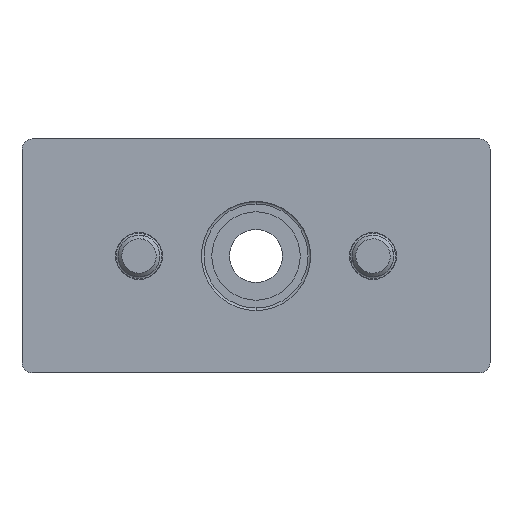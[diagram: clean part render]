
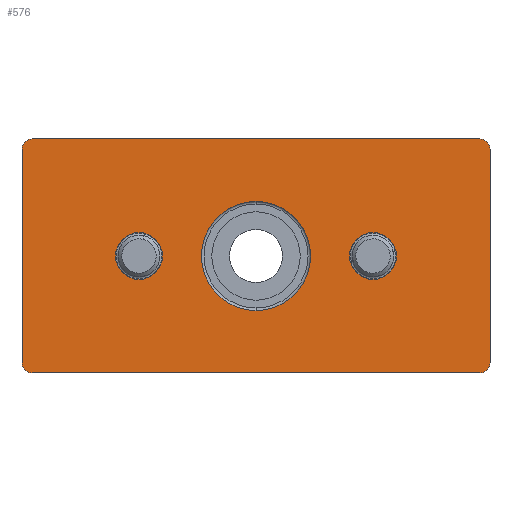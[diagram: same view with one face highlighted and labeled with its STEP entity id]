
A CAD part, front view. The second image highlights one B-rep face of the part: STEP entity #576.
In plain terms, the highlighted planar face has unit normal (0, -1, 0).
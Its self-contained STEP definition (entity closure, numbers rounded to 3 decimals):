
#33 = EDGE_CURVE ( 'NONE', #2861, #1975, #3966, .T. ) ;
#91 = VERTEX_POINT ( 'NONE', #2272 ) ;
#169 = VERTEX_POINT ( 'NONE', #793 ) ;
#198 = CIRCLE ( 'NONE', #2948, 4.5 ) ;
#212 = DIRECTION ( 'NONE',  ( 0., -1., 0. ) ) ;
#272 = VECTOR ( 'NONE', #3303, 1000. ) ;
#424 = CIRCLE ( 'NONE', #931, 2. ) ;
#434 = CARTESIAN_POINT ( 'NONE',  ( 38.489, -5.209, 21.222 ) ) ;
#472 = AXIS2_PLACEMENT_3D ( 'NONE', #2050, #3897, #1173 ) ;
#477 = EDGE_CURVE ( 'NONE', #3824, #1774, #3130, .T. ) ;
#493 = AXIS2_PLACEMENT_3D ( 'NONE', #1984, #2635, #2044 ) ;
#511 = ORIENTED_EDGE ( 'NONE', *, *, #2303, .T. ) ;
#525 = DIRECTION ( 'NONE',  ( 1., 0., 0. ) ) ;
#530 = VERTEX_POINT ( 'NONE', #3751 ) ;
#563 = EDGE_LOOP ( 'NONE', ( #2375, #2563 ) ) ;
#576 = ADVANCED_FACE ( 'NONE', ( #1608, #1907, #1285, #2286 ), #763, .F. ) ;
#589 = CARTESIAN_POINT ( 'NONE',  ( -49.511, -5.209, -21.778 ) ) ;
#615 = DIRECTION ( 'NONE',  ( 0., 0., 1. ) ) ;
#632 = ORIENTED_EDGE ( 'NONE', *, *, #477, .F. ) ;
#741 = CIRCLE ( 'NONE', #3748, 2. ) ;
#763 = PLANE ( 'NONE',  #2576 ) ;
#768 = CARTESIAN_POINT ( 'NONE',  ( -4.511, -5.209, 0.722 ) ) ;
#771 = LINE ( 'NONE', #1079, #3685 ) ;
#791 = EDGE_LOOP ( 'NONE', ( #2367, #3598 ) ) ;
#793 = CARTESIAN_POINT ( 'NONE',  ( -27.011, -5.209, -3.778 ) ) ;
#795 = CARTESIAN_POINT ( 'NONE',  ( 17.989, -5.209, 0.722 ) ) ;
#806 = ORIENTED_EDGE ( 'NONE', *, *, #2157, .F. ) ;
#832 = CARTESIAN_POINT ( 'NONE',  ( -49.511, -5.209, -19.778 ) ) ;
#838 = DIRECTION ( 'NONE',  ( 0., 0., -1. ) ) ;
#907 = CARTESIAN_POINT ( 'NONE',  ( -27.011, -5.209, 0.722 ) ) ;
#931 = AXIS2_PLACEMENT_3D ( 'NONE', #1319, #3805, #3726 ) ;
#946 = VERTEX_POINT ( 'NONE', #1267 ) ;
#1079 = CARTESIAN_POINT ( 'NONE',  ( 40.489, -5.209, 23.222 ) ) ;
#1101 = VECTOR ( 'NONE', #2877, 1000. ) ;
#1141 = DIRECTION ( 'NONE',  ( 0., 0., 1. ) ) ;
#1173 = DIRECTION ( 'NONE',  ( 0., 0., 1. ) ) ;
#1207 = DIRECTION ( 'NONE',  ( 0., -1., 0. ) ) ;
#1217 = CARTESIAN_POINT ( 'NONE',  ( 17.989, -5.209, 5.222 ) ) ;
#1267 = CARTESIAN_POINT ( 'NONE',  ( 17.989, -5.209, -3.778 ) ) ;
#1285 = FACE_BOUND ( 'NONE', #1833, .T. ) ;
#1319 = CARTESIAN_POINT ( 'NONE',  ( -47.511, -5.209, 21.222 ) ) ;
#1344 = CARTESIAN_POINT ( 'NONE',  ( -4.511, -5.209, -9.778 ) ) ;
#1377 = DIRECTION ( 'NONE',  ( 0., 0., -1. ) ) ;
#1486 = ORIENTED_EDGE ( 'NONE', *, *, #3076, .F. ) ;
#1580 = EDGE_CURVE ( 'NONE', #2861, #2386, #771, .T. ) ;
#1607 = AXIS2_PLACEMENT_3D ( 'NONE', #768, #2924, #1992 ) ;
#1608 = FACE_BOUND ( 'NONE', #791, .T. ) ;
#1677 = LINE ( 'NONE', #3239, #1101 ) ;
#1700 = ORIENTED_EDGE ( 'NONE', *, *, #2372, .T. ) ;
#1727 = CARTESIAN_POINT ( 'NONE',  ( 38.489, -5.209, -19.778 ) ) ;
#1762 = CARTESIAN_POINT ( 'NONE',  ( -27.011, -5.209, 5.222 ) ) ;
#1773 = VERTEX_POINT ( 'NONE', #2843 ) ;
#1774 = VERTEX_POINT ( 'NONE', #2242 ) ;
#1787 = DIRECTION ( 'NONE',  ( 0., 1., 0. ) ) ;
#1802 = VERTEX_POINT ( 'NONE', #2165 ) ;
#1833 = EDGE_LOOP ( 'NONE', ( #632, #1981 ) ) ;
#1907 = FACE_BOUND ( 'NONE', #563, .T. ) ;
#1975 = VERTEX_POINT ( 'NONE', #3359 ) ;
#1981 = ORIENTED_EDGE ( 'NONE', *, *, #3100, .F. ) ;
#1984 = CARTESIAN_POINT ( 'NONE',  ( -27.011, -5.209, 0.722 ) ) ;
#1992 = DIRECTION ( 'NONE',  ( 0., 0., -1. ) ) ;
#2022 = DIRECTION ( 'NONE',  ( 0., 1., 0. ) ) ;
#2044 = DIRECTION ( 'NONE',  ( 0., 0., 1. ) ) ;
#2045 = DIRECTION ( 'NONE',  ( 0., 0., 1. ) ) ;
#2050 = CARTESIAN_POINT ( 'NONE',  ( 17.989, -5.209, 0.722 ) ) ;
#2082 = CIRCLE ( 'NONE', #2585, 2. ) ;
#2134 = EDGE_CURVE ( 'NONE', #530, #2386, #741, .T. ) ;
#2157 = EDGE_CURVE ( 'NONE', #91, #1975, #2954, .T. ) ;
#2165 = CARTESIAN_POINT ( 'NONE',  ( -47.511, -5.209, -21.778 ) ) ;
#2208 = CIRCLE ( 'NONE', #493, 4.5 ) ;
#2227 = VERTEX_POINT ( 'NONE', #832 ) ;
#2242 = CARTESIAN_POINT ( 'NONE',  ( -4.511, -5.209, 11.222 ) ) ;
#2253 = ORIENTED_EDGE ( 'NONE', *, *, #2134, .T. ) ;
#2272 = CARTESIAN_POINT ( 'NONE',  ( -47.511, -5.209, 23.222 ) ) ;
#2286 = FACE_OUTER_BOUND ( 'NONE', #3739, .T. ) ;
#2303 = EDGE_CURVE ( 'NONE', #2227, #1802, #2082, .T. ) ;
#2367 = ORIENTED_EDGE ( 'NONE', *, *, #3524, .T. ) ;
#2372 = EDGE_CURVE ( 'NONE', #91, #1773, #424, .T. ) ;
#2375 = ORIENTED_EDGE ( 'NONE', *, *, #2860, .T. ) ;
#2386 = VERTEX_POINT ( 'NONE', #3783 ) ;
#2437 = AXIS2_PLACEMENT_3D ( 'NONE', #3559, #2656, #838 ) ;
#2449 = EDGE_CURVE ( 'NONE', #169, #3895, #2208, .T. ) ;
#2518 = DIRECTION ( 'NONE',  ( 0., 0., 1. ) ) ;
#2563 = ORIENTED_EDGE ( 'NONE', *, *, #3953, .T. ) ;
#2576 = AXIS2_PLACEMENT_3D ( 'NONE', #3543, #2639, #1141 ) ;
#2585 = AXIS2_PLACEMENT_3D ( 'NONE', #3689, #1207, #3633 ) ;
#2613 = VERTEX_POINT ( 'NONE', #1217 ) ;
#2635 = DIRECTION ( 'NONE',  ( 0., 1., 0. ) ) ;
#2639 = DIRECTION ( 'NONE',  ( 0., 1., 0. ) ) ;
#2656 = DIRECTION ( 'NONE',  ( 0., -1., 0. ) ) ;
#2803 = AXIS2_PLACEMENT_3D ( 'NONE', #434, #3039, #2518 ) ;
#2843 = CARTESIAN_POINT ( 'NONE',  ( -49.511, -5.209, 21.222 ) ) ;
#2860 = EDGE_CURVE ( 'NONE', #2613, #946, #3606, .T. ) ;
#2861 = VERTEX_POINT ( 'NONE', #3309 ) ;
#2877 = DIRECTION ( 'NONE',  ( -1., 0., 0. ) ) ;
#2905 = ORIENTED_EDGE ( 'NONE', *, *, #3906, .F. ) ;
#2924 = DIRECTION ( 'NONE',  ( 0., -1., 0. ) ) ;
#2948 = AXIS2_PLACEMENT_3D ( 'NONE', #907, #1787, #615 ) ;
#2954 = LINE ( 'NONE', #3250, #3684 ) ;
#3039 = DIRECTION ( 'NONE',  ( 0., -1., 0. ) ) ;
#3046 = DIRECTION ( 'NONE',  ( 0., 0., 1. ) ) ;
#3076 = EDGE_CURVE ( 'NONE', #530, #1802, #1677, .T. ) ;
#3100 = EDGE_CURVE ( 'NONE', #1774, #3824, #3343, .T. ) ;
#3130 = CIRCLE ( 'NONE', #2437, 10.5 ) ;
#3205 = AXIS2_PLACEMENT_3D ( 'NONE', #795, #2022, #3046 ) ;
#3239 = CARTESIAN_POINT ( 'NONE',  ( 40.489, -5.209, -21.778 ) ) ;
#3250 = CARTESIAN_POINT ( 'NONE',  ( -49.511, -5.209, 23.222 ) ) ;
#3303 = DIRECTION ( 'NONE',  ( 0., 0., 1. ) ) ;
#3309 = CARTESIAN_POINT ( 'NONE',  ( 40.489, -5.209, 21.222 ) ) ;
#3343 = CIRCLE ( 'NONE', #1607, 10.5 ) ;
#3359 = CARTESIAN_POINT ( 'NONE',  ( 38.489, -5.209, 23.222 ) ) ;
#3510 = ORIENTED_EDGE ( 'NONE', *, *, #1580, .F. ) ;
#3524 = EDGE_CURVE ( 'NONE', #3895, #169, #198, .T. ) ;
#3543 = CARTESIAN_POINT ( 'NONE',  ( -4.511, -5.209, 0.722 ) ) ;
#3559 = CARTESIAN_POINT ( 'NONE',  ( -4.511, -5.209, 0.722 ) ) ;
#3598 = ORIENTED_EDGE ( 'NONE', *, *, #2449, .T. ) ;
#3606 = CIRCLE ( 'NONE', #3205, 4.5 ) ;
#3633 = DIRECTION ( 'NONE',  ( 0., 0., 1. ) ) ;
#3684 = VECTOR ( 'NONE', #525, 1000. ) ;
#3685 = VECTOR ( 'NONE', #1377, 1000. ) ;
#3689 = CARTESIAN_POINT ( 'NONE',  ( -47.511, -5.209, -19.778 ) ) ;
#3726 = DIRECTION ( 'NONE',  ( 0., 0., 1. ) ) ;
#3739 = EDGE_LOOP ( 'NONE', ( #1486, #2253, #3510, #3780, #806, #1700, #2905, #511 ) ) ;
#3748 = AXIS2_PLACEMENT_3D ( 'NONE', #1727, #212, #2045 ) ;
#3751 = CARTESIAN_POINT ( 'NONE',  ( 38.489, -5.209, -21.778 ) ) ;
#3780 = ORIENTED_EDGE ( 'NONE', *, *, #33, .T. ) ;
#3783 = CARTESIAN_POINT ( 'NONE',  ( 40.489, -5.209, -19.778 ) ) ;
#3788 = CIRCLE ( 'NONE', #472, 4.5 ) ;
#3805 = DIRECTION ( 'NONE',  ( 0., -1., 0. ) ) ;
#3824 = VERTEX_POINT ( 'NONE', #1344 ) ;
#3895 = VERTEX_POINT ( 'NONE', #1762 ) ;
#3897 = DIRECTION ( 'NONE',  ( 0., 1., 0. ) ) ;
#3906 = EDGE_CURVE ( 'NONE', #2227, #1773, #3913, .T. ) ;
#3913 = LINE ( 'NONE', #589, #272 ) ;
#3953 = EDGE_CURVE ( 'NONE', #946, #2613, #3788, .T. ) ;
#3966 = CIRCLE ( 'NONE', #2803, 2. ) ;
